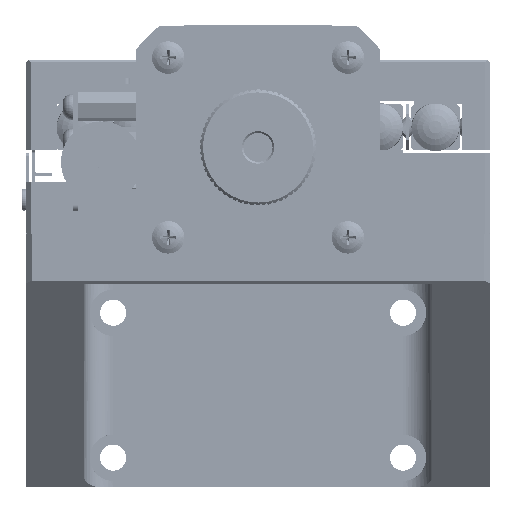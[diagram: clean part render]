
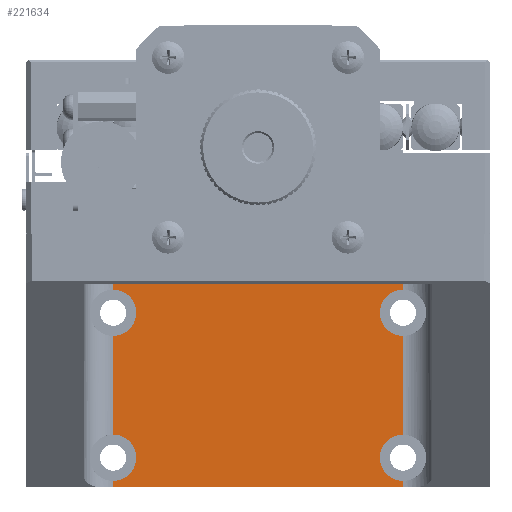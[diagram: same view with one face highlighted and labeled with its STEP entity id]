
A CAD part, front view. The second image highlights one B-rep face of the part: STEP entity #221634.
In plain terms, the highlighted planar face has unit normal (0, -1, 0).
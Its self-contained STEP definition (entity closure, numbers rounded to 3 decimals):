
#349 = VERTEX_POINT ( 'NONE', #223566 ) ;
#2480 = CARTESIAN_POINT ( 'NONE',  ( 25., 51., -43.5 ) ) ;
#2695 = CARTESIAN_POINT ( 'NONE',  ( 25., 51., -17.5 ) ) ;
#3316 = AXIS2_PLACEMENT_3D ( 'NONE', #36861, #89035, #16096 ) ;
#5082 = DIRECTION ( 'NONE',  ( -1., 0., 0. ) ) ;
#7566 = EDGE_CURVE ( 'NONE', #349, #88289, #84689, .T. ) ;
#8209 = EDGE_CURVE ( 'NONE', #192896, #81307, #31979, .T. ) ;
#10155 = VERTEX_POINT ( 'NONE', #164101 ) ;
#11321 = AXIS2_PLACEMENT_3D ( 'NONE', #126330, #163310, #181999 ) ;
#11811 = CARTESIAN_POINT ( 'NONE',  ( -21., 51., -13.5 ) ) ;
#16096 = DIRECTION ( 'NONE',  ( -1., 0., 0. ) ) ;
#21320 = DIRECTION ( 'NONE',  ( 0., -1., 0. ) ) ;
#29948 = DIRECTION ( 'NONE',  ( 0., 0., 1. ) ) ;
#31979 = LINE ( 'NONE', #209273, #127582 ) ;
#36861 = CARTESIAN_POINT ( 'NONE',  ( 0., 51., -21. ) ) ;
#36882 = EDGE_CURVE ( 'NONE', #96241, #227253, #165473, .T. ) ;
#37302 = CIRCLE ( 'NONE', #162887, 4. ) ;
#40559 = CARTESIAN_POINT ( 'NONE',  ( 25., 51., -8.5 ) ) ;
#41608 = ORIENTED_EDGE ( 'NONE', *, *, #123886, .T. ) ;
#42622 = ORIENTED_EDGE ( 'NONE', *, *, #82636, .T. ) ;
#43248 = VERTEX_POINT ( 'NONE', #197094 ) ;
#43477 = CARTESIAN_POINT ( 'NONE',  ( 0., 51., -8.5 ) ) ;
#45845 = VECTOR ( 'NONE', #227719, 1000. ) ;
#47792 = CARTESIAN_POINT ( 'NONE',  ( -25., 51., -38.5 ) ) ;
#49870 = EDGE_CURVE ( 'NONE', #61206, #81307, #174377, .T. ) ;
#50329 = AXIS2_PLACEMENT_3D ( 'NONE', #47792, #186845, #170512 ) ;
#50460 = LINE ( 'NONE', #138443, #177516 ) ;
#53330 = VERTEX_POINT ( 'NONE', #143317 ) ;
#54978 = DIRECTION ( 'NONE',  ( -1., 0., 0. ) ) ;
#57174 = LINE ( 'NONE', #112721, #106287 ) ;
#57264 = CARTESIAN_POINT ( 'NONE',  ( 25., 51., -38.5 ) ) ;
#57697 = EDGE_CURVE ( 'NONE', #10155, #96241, #101702, .T. ) ;
#58688 = ORIENTED_EDGE ( 'NONE', *, *, #49870, .F. ) ;
#60626 = DIRECTION ( 'NONE',  ( -1., 0., 0. ) ) ;
#61206 = VERTEX_POINT ( 'NONE', #120190 ) ;
#61366 = VECTOR ( 'NONE', #151121, 1000. ) ;
#61732 = CARTESIAN_POINT ( 'NONE',  ( -25., 51., -17.5 ) ) ;
#62585 = ORIENTED_EDGE ( 'NONE', *, *, #36882, .F. ) ;
#67857 = DIRECTION ( 'NONE',  ( 0., 0., -1. ) ) ;
#69970 = ORIENTED_EDGE ( 'NONE', *, *, #184586, .F. ) ;
#70022 = DIRECTION ( 'NONE',  ( -1., 0., 0. ) ) ;
#70757 = ORIENTED_EDGE ( 'NONE', *, *, #57697, .F. ) ;
#76868 = EDGE_CURVE ( 'NONE', #43248, #141139, #97916, .T. ) ;
#80494 = EDGE_CURVE ( 'NONE', #192896, #150261, #37302, .T. ) ;
#81307 = VERTEX_POINT ( 'NONE', #217635 ) ;
#82636 = EDGE_CURVE ( 'NONE', #10155, #208362, #85534, .T. ) ;
#84689 = LINE ( 'NONE', #187824, #105428 ) ;
#85304 = EDGE_CURVE ( 'NONE', #53330, #43248, #144523, .T. ) ;
#85534 = LINE ( 'NONE', #206092, #198116 ) ;
#85660 = CARTESIAN_POINT ( 'NONE',  ( -25., 51., -13.5 ) ) ;
#86302 = CARTESIAN_POINT ( 'NONE',  ( 25., 51., -21. ) ) ;
#87353 = CIRCLE ( 'NONE', #50329, 4. ) ;
#88289 = VERTEX_POINT ( 'NONE', #2480 ) ;
#89035 = DIRECTION ( 'NONE',  ( 0., -1., 0. ) ) ;
#89224 = AXIS2_PLACEMENT_3D ( 'NONE', #135852, #139235, #102186 ) ;
#90398 = VERTEX_POINT ( 'NONE', #127034 ) ;
#90458 = AXIS2_PLACEMENT_3D ( 'NONE', #57264, #21320, #5082 ) ;
#90564 = ORIENTED_EDGE ( 'NONE', *, *, #160416, .T. ) ;
#92099 = ORIENTED_EDGE ( 'NONE', *, *, #8209, .T. ) ;
#95750 = EDGE_CURVE ( 'NONE', #88289, #141139, #50460, .T. ) ;
#96241 = VERTEX_POINT ( 'NONE', #114822 ) ;
#97916 = CIRCLE ( 'NONE', #90458, 4. ) ;
#100886 = DIRECTION ( 'NONE',  ( 1., 0., 0. ) ) ;
#101132 = DIRECTION ( 'NONE',  ( 0., 0., -1. ) ) ;
#101702 = CIRCLE ( 'NONE', #112775, 4. ) ;
#102186 = DIRECTION ( 'NONE',  ( -1., 0., 0. ) ) ;
#103576 = LINE ( 'NONE', #86302, #45845 ) ;
#105428 = VECTOR ( 'NONE', #100886, 1000. ) ;
#105552 = VERTEX_POINT ( 'NONE', #125922 ) ;
#106287 = VECTOR ( 'NONE', #127815, 1000. ) ;
#110121 = EDGE_CURVE ( 'NONE', #166940, #105552, #189223, .T. ) ;
#112721 = CARTESIAN_POINT ( 'NONE',  ( -25., 51., -21. ) ) ;
#112775 = AXIS2_PLACEMENT_3D ( 'NONE', #213746, #124481, #54978 ) ;
#114822 = CARTESIAN_POINT ( 'NONE',  ( 21., 51., -13.5 ) ) ;
#119229 = DIRECTION ( 'NONE',  ( 0., -1., 0. ) ) ;
#120190 = CARTESIAN_POINT ( 'NONE',  ( -21., 51., -38.5 ) ) ;
#122031 = EDGE_LOOP ( 'NONE', ( #157538, #92099, #58688, #69970, #90564, #162310, #177818, #190781, #176967, #41608, #62585, #70757, #42622, #194259, #160004, #199574 ) ) ;
#123886 = EDGE_CURVE ( 'NONE', #53330, #227253, #103576, .T. ) ;
#124481 = DIRECTION ( 'NONE',  ( 0., -1., 0. ) ) ;
#125922 = CARTESIAN_POINT ( 'NONE',  ( -25., 51., -9.5 ) ) ;
#126330 = CARTESIAN_POINT ( 'NONE',  ( 25., 51., -38.5 ) ) ;
#127034 = CARTESIAN_POINT ( 'NONE',  ( -25., 51., -42.5 ) ) ;
#127582 = VECTOR ( 'NONE', #67857, 1000. ) ;
#127815 = DIRECTION ( 'NONE',  ( 0., 0., -1. ) ) ;
#135852 = CARTESIAN_POINT ( 'NONE',  ( -25., 51., -38.5 ) ) ;
#138443 = CARTESIAN_POINT ( 'NONE',  ( 25., 51., -21. ) ) ;
#139235 = DIRECTION ( 'NONE',  ( 0., -1., 0. ) ) ;
#141139 = VERTEX_POINT ( 'NONE', #151382 ) ;
#143317 = CARTESIAN_POINT ( 'NONE',  ( 25., 51., -34.5 ) ) ;
#143333 = AXIS2_PLACEMENT_3D ( 'NONE', #147432, #146286, #60626 ) ;
#144523 = CIRCLE ( 'NONE', #11321, 4. ) ;
#146286 = DIRECTION ( 'NONE',  ( 0., -1., 0. ) ) ;
#147432 = CARTESIAN_POINT ( 'NONE',  ( 25., 51., -13.5 ) ) ;
#150261 = VERTEX_POINT ( 'NONE', #11811 ) ;
#151121 = DIRECTION ( 'NONE',  ( 1., 0., 0. ) ) ;
#151382 = CARTESIAN_POINT ( 'NONE',  ( 25., 51., -42.5 ) ) ;
#151687 = FACE_OUTER_BOUND ( 'NONE', #122031, .T. ) ;
#153257 = CARTESIAN_POINT ( 'NONE',  ( -25., 51., -21. ) ) ;
#157538 = ORIENTED_EDGE ( 'NONE', *, *, #80494, .F. ) ;
#160004 = ORIENTED_EDGE ( 'NONE', *, *, #110121, .T. ) ;
#160416 = EDGE_CURVE ( 'NONE', #90398, #349, #57174, .T. ) ;
#162310 = ORIENTED_EDGE ( 'NONE', *, *, #7566, .T. ) ;
#162887 = AXIS2_PLACEMENT_3D ( 'NONE', #85660, #119229, #208520 ) ;
#163310 = DIRECTION ( 'NONE',  ( 0., -1., 0. ) ) ;
#164101 = CARTESIAN_POINT ( 'NONE',  ( 25., 51., -9.5 ) ) ;
#165473 = CIRCLE ( 'NONE', #143333, 4. ) ;
#166940 = VERTEX_POINT ( 'NONE', #190571 ) ;
#170512 = DIRECTION ( 'NONE',  ( -1., 0., 0. ) ) ;
#174377 = CIRCLE ( 'NONE', #89224, 4. ) ;
#176967 = ORIENTED_EDGE ( 'NONE', *, *, #85304, .F. ) ;
#177516 = VECTOR ( 'NONE', #187235, 1000. ) ;
#177792 = DIRECTION ( 'NONE',  ( 0., -1., 0. ) ) ;
#177818 = ORIENTED_EDGE ( 'NONE', *, *, #95750, .T. ) ;
#178921 = AXIS2_PLACEMENT_3D ( 'NONE', #192866, #177792, #70022 ) ;
#181999 = DIRECTION ( 'NONE',  ( -1., 0., 0. ) ) ;
#184586 = EDGE_CURVE ( 'NONE', #90398, #61206, #87353, .T. ) ;
#186845 = DIRECTION ( 'NONE',  ( 0., -1., 0. ) ) ;
#187235 = DIRECTION ( 'NONE',  ( 0., 0., 1. ) ) ;
#187824 = CARTESIAN_POINT ( 'NONE',  ( 40., 51., -43.5 ) ) ;
#189223 = LINE ( 'NONE', #153257, #215612 ) ;
#190020 = CIRCLE ( 'NONE', #178921, 4. ) ;
#190571 = CARTESIAN_POINT ( 'NONE',  ( -25., 51., -8.5 ) ) ;
#190781 = ORIENTED_EDGE ( 'NONE', *, *, #76868, .F. ) ;
#192866 = CARTESIAN_POINT ( 'NONE',  ( -25., 51., -13.5 ) ) ;
#192896 = VERTEX_POINT ( 'NONE', #61732 ) ;
#194259 = ORIENTED_EDGE ( 'NONE', *, *, #225344, .F. ) ;
#197094 = CARTESIAN_POINT ( 'NONE',  ( 21., 51., -38.5 ) ) ;
#198116 = VECTOR ( 'NONE', #29948, 1000. ) ;
#199574 = ORIENTED_EDGE ( 'NONE', *, *, #212471, .F. ) ;
#203387 = LINE ( 'NONE', #43477, #61366 ) ;
#205089 = PLANE ( 'NONE',  #3316 ) ;
#206092 = CARTESIAN_POINT ( 'NONE',  ( 25., 51., -21. ) ) ;
#208362 = VERTEX_POINT ( 'NONE', #40559 ) ;
#208520 = DIRECTION ( 'NONE',  ( -1., 0., 0. ) ) ;
#209273 = CARTESIAN_POINT ( 'NONE',  ( -25., 51., -21. ) ) ;
#212471 = EDGE_CURVE ( 'NONE', #150261, #105552, #190020, .T. ) ;
#213746 = CARTESIAN_POINT ( 'NONE',  ( 25., 51., -13.5 ) ) ;
#215612 = VECTOR ( 'NONE', #101132, 1000. ) ;
#217635 = CARTESIAN_POINT ( 'NONE',  ( -25., 51., -34.5 ) ) ;
#221634 = ADVANCED_FACE ( 'NONE', ( #151687 ), #205089, .T. ) ;
#223566 = CARTESIAN_POINT ( 'NONE',  ( -25., 51., -43.5 ) ) ;
#225344 = EDGE_CURVE ( 'NONE', #166940, #208362, #203387, .T. ) ;
#227253 = VERTEX_POINT ( 'NONE', #2695 ) ;
#227719 = DIRECTION ( 'NONE',  ( 0., 0., 1. ) ) ;
